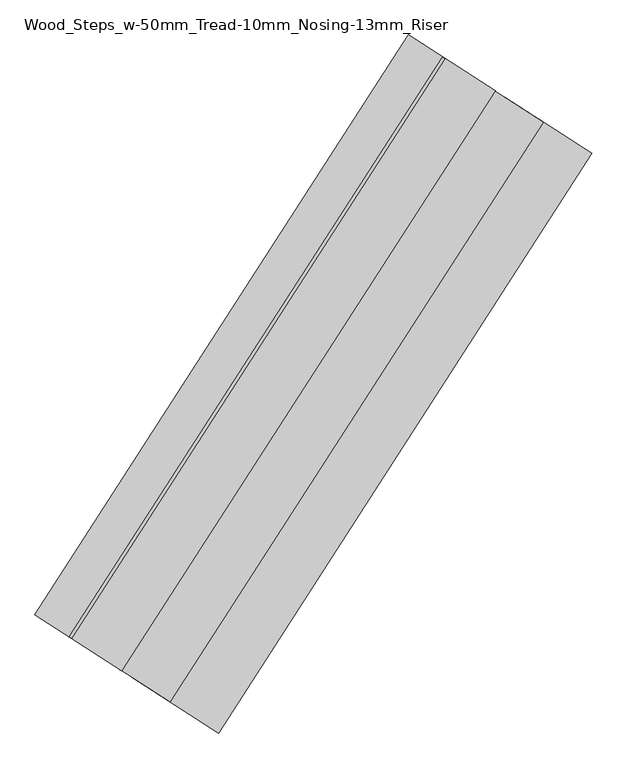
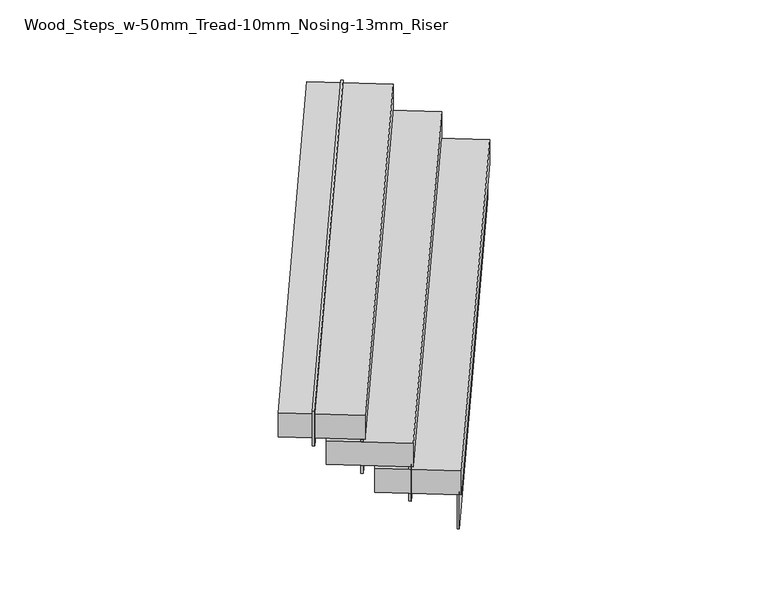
"""IFC4 building model written with IfcOpenShell, lengths in millimetres: stair flight geometry, Wood_Steps_w-50mm_Tread-10mm_Nosing-13mm_Riser."""

import ifcopenshell
import ifcopenshell.guid

model = None  # the IFC model being written
_history = None  # IfcOwnerHistory: only IFC2X3 demands one
_inside = {}  # id of a spatial element -> (the spatial element, [elements in it])
_under = {}  # id of a project, library or spatial element -> (it, [spatial elements below it])
_declared = {}  # id of a project -> (the project, [libraries it declares])
_typed = {}  # id of a type object -> (the type object, [elements of that type])
_made_of = {}  # id of a material, layer set ... -> (it, [elements and type objects made of it])


def new_model(schema):
    """Start an empty IFC model of exactly this schema.

    Asked for "IFC4X3", IfcOpenShell would pick the latest addendum, in which some entities
    have other attributes; the version numbers below select the first issue.
    IFC2X3 requires an IfcOwnerHistory on every rooted entity: one is made here for all.
    """
    global model, _history
    if schema == "IFC4X3":
        model = ifcopenshell.file(schema_version=(4, 3, 0, 0))
    else:
        model = ifcopenshell.file(schema=schema)
    _inside.clear()
    _under.clear()
    _declared.clear()
    _typed.clear()
    _made_of.clear()
    _history = None
    if model.schema == "IFC2X3":
        org = make("IfcOrganization", Name="unknown")
        user = make(
            "IfcPersonAndOrganization",
            ThePerson=make("IfcPerson", FamilyName="unknown"),
            TheOrganization=org,
        )
        app = make(
            "IfcApplication",
            ApplicationDeveloper=org,
            Version="unknown",
            ApplicationFullName="unknown",
            ApplicationIdentifier="unknown",
        )
        _history = make(
            "IfcOwnerHistory",
            OwningUser=user,
            OwningApplication=app,
            ChangeAction="ADDED",
            CreationDate=0,
        )
    return model


def make(cls, **values):
    """One entity of the class cls with the attributes given. An attribute that is None is left unset."""
    return model.create_entity(
        cls, **{name: value for name, value in values.items() if value is not None}
    )


def rooted(cls, **values):
    """An entity with a GlobalId (a new one), such as an element, a storey or a relation."""
    return make(cls, GlobalId=ifcopenshell.guid.new(), OwnerHistory=_history, **values)


def si_unit(unit_type, name, prefix=None):
    """IfcSIUnit, for example si_unit("LENGTHUNIT", "METRE", prefix="MILLI")."""
    return make("IfcSIUnit", UnitType=unit_type, Prefix=prefix, Name=name)


def assignment(units):
    """IfcUnitAssignment: the units of a project."""
    return None if units is None else make("IfcUnitAssignment", Units=units)


def point(xyz):
    """IfcCartesianPoint."""
    return None if xyz is None else make("IfcCartesianPoint", Coordinates=xyz)


def direction(xyz):
    """IfcDirection."""
    return None if xyz is None else make("IfcDirection", DirectionRatios=xyz)


def frame(location, z_axis=None, x_axis=None):
    """IfcAxis2Placement3D, a coordinate frame: its origin and axes. An axis left out is left unset."""
    return make(
        "IfcAxis2Placement3D",
        Location=point(location),
        Axis=direction(z_axis),
        RefDirection=direction(x_axis),
    )


def origin():
    """The frame at (0, 0, 0) with its axes left unset."""
    return frame((0.0, 0.0, 0.0))


def place(relative_to, where):
    """IfcLocalPlacement: puts the frame where relative to a parent placement (None: the world)."""
    return make(
        "IfcLocalPlacement", PlacementRelTo=relative_to, RelativePlacement=where
    )


def context(
    kind, dimensions, precision=None, world=None, true_north=None, identifier=None
):
    """IfcGeometricRepresentationContext, for example the 3D "Model" context."""
    return make(
        "IfcGeometricRepresentationContext",
        ContextIdentifier=identifier,
        ContextType=kind,
        CoordinateSpaceDimension=dimensions,
        Precision=precision,
        WorldCoordinateSystem=world,
        TrueNorth=true_north,
    )


def project(units=None, contexts=None):
    """IfcProject with its units and contexts."""
    return rooted(
        "IfcProject",
        Name="project",
        RepresentationContexts=contexts,
        UnitsInContext=assignment(units),
    )


def spatial(cls, under=None, at=None, **own):
    """A site, building, storey or space (cls), placed at a placement, below another one or the project."""
    s = rooted(cls, ObjectPlacement=at, **own)
    if under is not None:
        _under.setdefault(under.id(), (under, []))[1].append(s)
    return s


def polyline(points):
    """IfcPolyline through the points."""
    return make("IfcPolyline", Points=[point(p) for p in points])


def outline(outer, holes=None, kind="AREA"):
    """IfcArbitraryClosedProfileDef: a profile drawn as a closed curve; with holes, ...WithVoids."""
    if holes is None:
        return make("IfcArbitraryClosedProfileDef", ProfileType=kind, OuterCurve=outer)
    return make(
        "IfcArbitraryProfileDefWithVoids",
        ProfileType=kind,
        OuterCurve=outer,
        InnerCurves=holes,
    )


def extrude(swept, where, along, depth):
    """IfcExtrudedAreaSolid: the profile swept, set in the frame where, extruded along a direction by depth."""
    return make(
        "IfcExtrudedAreaSolid",
        SweptArea=swept,
        Position=where,
        ExtrudedDirection=direction(along),
        Depth=depth,
    )


def shape(context_of_items, identifier, shape_type, items):
    """IfcShapeRepresentation: the items that make up one representation, for example the "Body"."""
    return make(
        "IfcShapeRepresentation",
        ContextOfItems=context_of_items,
        RepresentationIdentifier=identifier,
        RepresentationType=shape_type,
        Items=items,
    )


def source(mapping_origin, context_of_items, identifier, shape_type, items):
    """IfcRepresentationMap: a shape defined once, which mapped items show again and again."""
    return make(
        "IfcRepresentationMap",
        MappingOrigin=mapping_origin,
        MappedRepresentation=shape(context_of_items, identifier, shape_type, items),
    )


def transform(
    local_origin,
    x_axis=None,
    y_axis=None,
    z_axis=None,
    scale=None,
    scale2=None,
    scale3=None,
    uniform=True,
):
    """IfcCartesianTransformationOperator3D, or its non-uniform kind. x_axis, y_axis, z_axis: its Axis1, 2, 3."""
    if uniform:
        return make(
            "IfcCartesianTransformationOperator3D",
            Axis1=direction(x_axis),
            Axis2=direction(y_axis),
            LocalOrigin=point(local_origin),
            Scale=scale,
            Axis3=direction(z_axis),
        )
    return make(
        "IfcCartesianTransformationOperator3DnonUniform",
        Axis1=direction(x_axis),
        Axis2=direction(y_axis),
        LocalOrigin=point(local_origin),
        Scale=scale,
        Axis3=direction(z_axis),
        Scale2=scale2,
        Scale3=scale3,
    )


def mapped(mapping_source, mapping_target):
    """IfcMappedItem: shows the shape of a source again, moved by a transform."""
    return make(
        "IfcMappedItem", MappingSource=mapping_source, MappingTarget=mapping_target
    )


def made_of(thing, what):
    """Note that an element or type object is made of a material, layer set ...; save() writes the relation."""
    if what is not None:
        _made_of.setdefault(what.id(), (what, []))[1].append(thing)
    return thing


def element(
    cls,
    number,
    at=None,
    inside=None,
    cuts=None,
    type_object=None,
    material=None,
    context=None,
    identifier="Body",
    shape_type=None,
    held_by="IfcProductDefinitionShape",
    body=None,
    shapes=None,
    **own,
):
    """One element of the class cls, such as IfcWall. Its Tag is "e" and its number.

    at: its placement. inside: the storey or other place that contains it. cuts: it is an
    opening in that element (IfcRelVoidsElement). A single representation is given by context,
    identifier, shape_type and body (its items); several are given by shapes. held_by: the class
    of the entity that holds the representations. save() writes the other relations.
    """
    e = rooted(cls, Tag="e%d" % number, ObjectPlacement=at, **own)
    if body is not None:
        shapes = [shape(context, identifier, shape_type, body)]
    if shapes is not None:
        e.Representation = make(held_by, Representations=shapes)
    if inside is not None:
        _inside.setdefault(inside.id(), (inside, []))[1].append(e)
    if cuts is not None:
        rooted(
            "IfcRelVoidsElement", RelatingBuildingElement=cuts, RelatedOpeningElement=e
        )
    if type_object is not None:
        _typed.setdefault(type_object.id(), (type_object, []))[1].append(e)
    return made_of(e, material)


def aggregate(whole, parts):
    """IfcRelAggregates: a whole, such as a stair, and the parts it consists of."""
    return rooted("IfcRelAggregates", RelatingObject=whole, RelatedObjects=parts)


def save(model, path):
    """Write the relations noted so far, then the file.

    IfcRelAggregates (storeys below a building ...), IfcRelContainedInSpatialStructure (elements
    in a storey), IfcRelDefinesByType, IfcRelAssociatesMaterial and IfcRelDeclares: one each for
    every whole, place, type object, material and project.
    """
    for whole, parts in _under.values():
        aggregate(whole, parts)
    for where, things in _inside.values():
        rooted(
            "IfcRelContainedInSpatialStructure",
            RelatedElements=things,
            RelatingStructure=where,
        )
    for kind, things in _typed.values():
        rooted("IfcRelDefinesByType", RelatedObjects=things, RelatingType=kind)
    for what, things in _made_of.values():
        rooted("IfcRelAssociatesMaterial", RelatedObjects=things, RelatingMaterial=what)
    for by, libraries in _declared.values():
        rooted("IfcRelDeclares", RelatingContext=by, RelatedDefinitions=libraries)
    model.write(path)


def wood_steps_w_50mm_tread_10mm_nosing_13mm_riser_4d9a7b32(model_context):
    return source(origin(), model_context, "Body", "SweptSolid", [
        extrude(outline(polyline([(14039.6411632, 7976.1434563), (14417.8809756, 7732.3512408), (12792.5995389, 5210.7524917), (12414.3597265, 5454.5447072), (14039.6411632, 7976.1434563)])), frame((0.0, 0.0, 666.6666667), z_axis=(0.0, 0.0, 1.0), x_axis=(1.0, 0.0, 0.0)), (0.0, 0.0, 1.0), 150.0),
        extrude(outline(polyline([(14398.968985, 7744.5408516), (14409.4756464, 7737.7688456), (12784.1942097, 5216.1700965), (12773.6875482, 5222.9421025), (14398.968985, 7744.5408516)])), frame((0.0, 0.0, 450.0), z_axis=(0.0, 0.0, 1.0), x_axis=(1.0, 0.0, 0.0)), (0.0, 0.0, 1.0), 216.6666667),
        extrude(outline(polyline([(14188.8357559, 7879.9809713), (14199.3424173, 7873.2089653), (12574.0609806, 5351.6102162), (12563.5543192, 5358.3822222), (14188.8357559, 7879.9809713)])), frame((0.0, 0.0, 616.6666667), z_axis=(0.0, 0.0, 1.0), x_axis=(1.0, 0.0, 0.0)), (0.0, 0.0, 1.0), 216.6666667),
        extrude(outline(polyline([(13829.5079341, 8111.583576), (14207.7477465, 7867.7913605), (12582.4663098, 5346.1926114), (12204.2264974, 5589.9848269), (13829.5079341, 8111.583576)])), frame((0.0, 0.0, 833.3333333), z_axis=(0.0, 0.0, 1.0), x_axis=(1.0, 0.0, 0.0)), (0.0, 0.0, 1.0), 150.0),
        extrude(outline(polyline([(13978.7025268, 8015.421091), (13989.2091882, 8008.649085), (12363.9277515, 5487.0503359), (12353.4210901, 5493.8223419), (13978.7025268, 8015.421091)])), frame((0.0, 0.0, 783.3333333), z_axis=(0.0, 0.0, 1.0), x_axis=(1.0, 0.0, 0.0)), (0.0, 0.0, 1.0), 216.6666667),
        extrude(outline(polyline([(13768.5692977, 8150.8612107), (13779.0759592, 8144.0892047), (12153.7945224, 5622.4904557), (12143.287861, 5629.2624616), (13768.5692977, 8150.8612107)])), frame((0.0, 0.0, 950.0), z_axis=(0.0, 0.0, 1.0), x_axis=(1.0, 0.0, 0.0)), (0.0, 0.0, 1.0), 216.6666667),
        extrude(outline(polyline([(13619.374705, 8247.0236957), (13997.6145174, 8003.2314802), (12372.3330807, 5481.6327311), (11994.0932683, 5725.4249466), (13619.374705, 8247.0236957)])), frame((0.0, 0.0, 1000.0), z_axis=(0.0, 0.0, 1.0), x_axis=(1.0, 0.0, 0.0)), (0.0, 0.0, 1.0), 150.0),
    ])


if __name__ == "__main__":
    model = new_model("IFC4")
    model_context = context("Model", 3, world=origin())
    ifc_project = project(units=[si_unit("LENGTHUNIT", "METRE", prefix="MILLI")], contexts=[model_context])
    site = spatial("IfcSite", under=ifc_project)
    building = spatial("IfcBuilding", under=site)
    placement = place(None, origin())
    wood_steps_w_50mm_tread_10mm_nosing_13mm_riser_shape = wood_steps_w_50mm_tread_10mm_nosing_13mm_riser_4d9a7b32(model_context)
    element("IfcStairFlight", 1, ObjectType="Wood_Steps_w-50mm_Tread-10mm_Nosing-13mm_Riser", at=placement, inside=building, context=model_context, shape_type="MappedRepresentation", body=[
        mapped(wood_steps_w_50mm_tread_10mm_nosing_13mm_riser_shape, transform((0.0, 0.0, 0.0), x_axis=(1.0, 0.0, 0.0), y_axis=(0.0, 1.0, 0.0), z_axis=(0.0, 0.0, 1.0))),
    ])
    save(model, "model.ifc")
